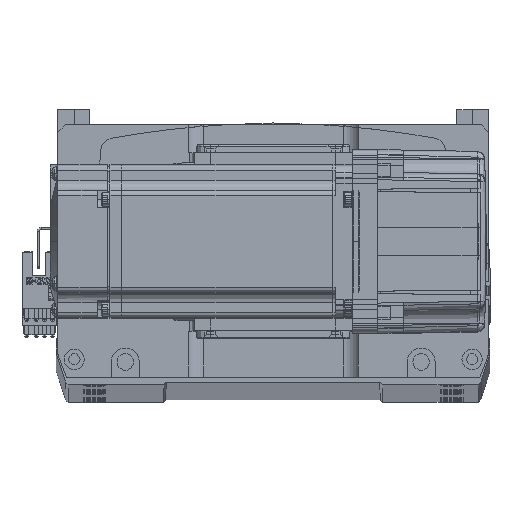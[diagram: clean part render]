
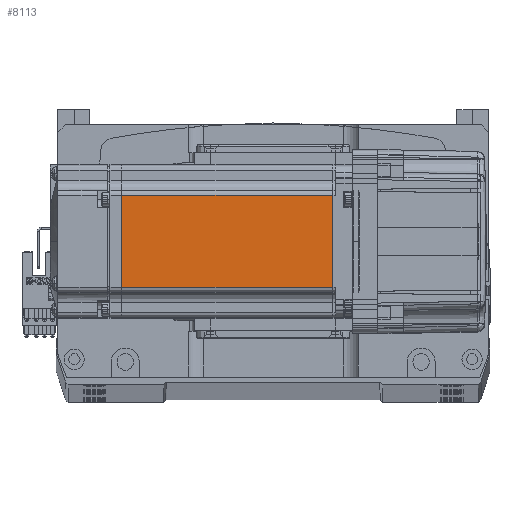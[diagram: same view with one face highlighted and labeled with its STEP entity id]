
A CAD part, top view. The second image highlights one B-rep face of the part: STEP entity #8113.
In plain terms, the highlighted planar face has unit normal (0, 0, 1).
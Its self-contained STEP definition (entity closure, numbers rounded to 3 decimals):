
#2310 = DIRECTION ( 'NONE',  ( 0., 0., 1. ) ) ;
#2373 = ORIENTED_EDGE ( 'NONE', *, *, #31507, .F. ) ;
#8113 = ADVANCED_FACE ( 'NONE', ( #62390 ), #42035, .T. ) ;
#10755 = VERTEX_POINT ( 'NONE', #28106 ) ;
#10831 = VERTEX_POINT ( 'NONE', #62751 ) ;
#11260 = CARTESIAN_POINT ( 'NONE',  ( -7.75, -18., 30. ) ) ;
#13426 = ORIENTED_EDGE ( 'NONE', *, *, #52188, .T. ) ;
#14977 = CARTESIAN_POINT ( 'NONE',  ( -6.5, 18., 30. ) ) ;
#15233 = VERTEX_POINT ( 'NONE', #11260 ) ;
#17722 = DIRECTION ( 'NONE',  ( 0., -1., 0. ) ) ;
#19189 = EDGE_LOOP ( 'NONE', ( #58930, #13426, #50099, #2373 ) ) ;
#28106 = CARTESIAN_POINT ( 'NONE',  ( -90.45, -18., 30. ) ) ;
#28994 = VECTOR ( 'NONE', #17722, 1000. ) ;
#30022 = DIRECTION ( 'NONE',  ( 0., -1., 0. ) ) ;
#31507 = EDGE_CURVE ( 'NONE', #15233, #10755, #38873, .T. ) ;
#34843 = CARTESIAN_POINT ( 'NONE',  ( -6.5, -18., 30. ) ) ;
#36979 = CARTESIAN_POINT ( 'NONE',  ( -6.5, -25., 30. ) ) ;
#37067 = LINE ( 'NONE', #40682, #28994 ) ;
#38873 = LINE ( 'NONE', #34843, #68666 ) ;
#40682 = CARTESIAN_POINT ( 'NONE',  ( -90.45, 0., 30. ) ) ;
#41228 = VECTOR ( 'NONE', #30022, 1000. ) ;
#42035 = PLANE ( 'NONE',  #43467 ) ;
#42081 = LINE ( 'NONE', #65030, #41228 ) ;
#43467 = AXIS2_PLACEMENT_3D ( 'NONE', #36979, #2310, #48581 ) ;
#46398 = DIRECTION ( 'NONE',  ( -1., 0., 0. ) ) ;
#48581 = DIRECTION ( 'NONE',  ( 1., 0., 0. ) ) ;
#49739 = VECTOR ( 'NONE', #55327, 1000. ) ;
#50099 = ORIENTED_EDGE ( 'NONE', *, *, #56317, .T. ) ;
#52188 = EDGE_CURVE ( 'NONE', #68052, #10831, #70504, .T. ) ;
#55327 = DIRECTION ( 'NONE',  ( -1., 0., 0. ) ) ;
#56317 = EDGE_CURVE ( 'NONE', #10831, #10755, #37067, .T. ) ;
#58930 = ORIENTED_EDGE ( 'NONE', *, *, #74554, .F. ) ;
#62390 = FACE_OUTER_BOUND ( 'NONE', #19189, .T. ) ;
#62751 = CARTESIAN_POINT ( 'NONE',  ( -90.45, 18., 30. ) ) ;
#65030 = CARTESIAN_POINT ( 'NONE',  ( -7.75, 0., 30. ) ) ;
#68052 = VERTEX_POINT ( 'NONE', #74277 ) ;
#68666 = VECTOR ( 'NONE', #46398, 1000. ) ;
#70504 = LINE ( 'NONE', #14977, #49739 ) ;
#74277 = CARTESIAN_POINT ( 'NONE',  ( -7.75, 18., 30. ) ) ;
#74554 = EDGE_CURVE ( 'NONE', #68052, #15233, #42081, .T. ) ;
